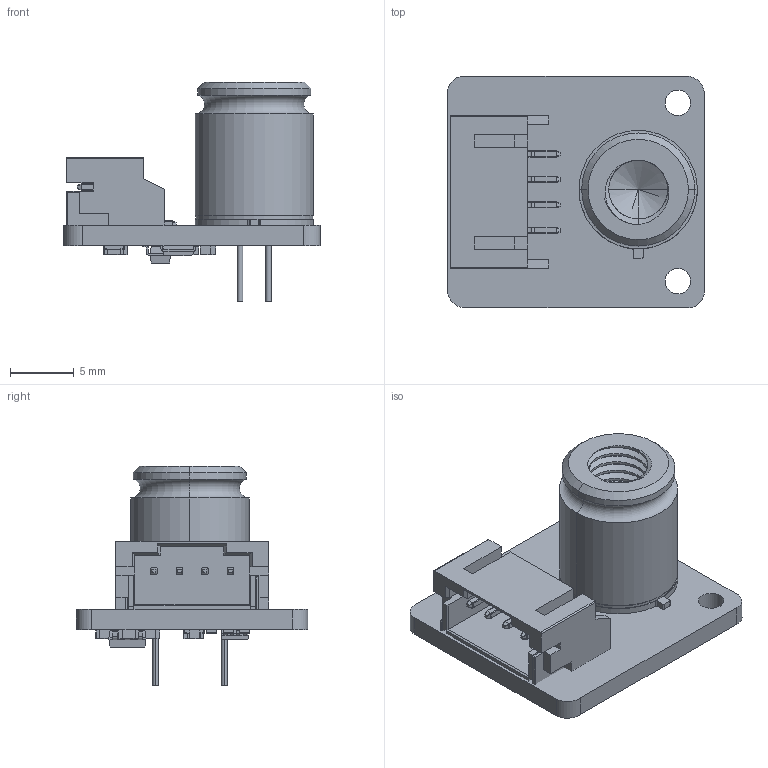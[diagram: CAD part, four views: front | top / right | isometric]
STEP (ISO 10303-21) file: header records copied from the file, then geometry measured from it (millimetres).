
FILE_DESCRIPTION(/* description */ (''),/* implementation_level */ '2;1');
FILE_NAME(/* name */ 'Thermal Camera HAT-V1.2_step.stp',/* time_stamp */ '2025-08-14T09:36:49+08:00',/* author */ (''),/* organization */ (''),/* preprocessor_version */ 'ST-DEVELOPER v16.7',/* originating_system */ 'SIEMENS PLM Software NX 12.0',/* authorisation */ '');
FILE_SCHEMA (('AUTOMOTIVE_DESIGN { 1 0 10303 214 3 1 1 1 }'));
Products named in the file (37): 3_1_200; 1_1_2_A; 2_1_200; PH2_0_SMD-W__1_200; C_060312508; LOGO_9444; LOGO_; R_0603866; SOT23-5-2; VSSOP_DCU_MO-187CA]; MLX90640ESF-BAB-000-SP_step; Open CASCADE STEP translator 6.8 1.1.1; C_0603; C1; C2; C3; C4; C5; PH2_0_SMD-W-4P-13253_AF0_ASM; PH2_0_SMD-W-4P-3839_AF0_ASM; PH2.0_SMD-W-4P; Designator14; PH2_0-4PWB; P1; R_0603; R3; R4; R5; R6; U1; U2; U3; C6; C8; R2; Board; Thermal Camera HAT-V1.2_step
Assembly tree (49 placements, depth 8):
  Thermal Camera HAT-V1.2_step
    Board
      Open CASCADE STEP translator 6.8 1.1.1
    R2
      R_0603
        R_0603866
        LOGO_
    C8
      C_0603
        LOGO_9444
        C_060312508
    C6
      C_0603
        LOGO_9444
        C_060312508
    U3
      MLX90640ESF-BAB-000-SP_step
    U2
      VSSOP_DCU_MO-187CA]
    U1
      SOT23-5-2
    R6
      R_0603
        R_0603866
        LOGO_
    R5
      R_0603
        R_0603866
        LOGO_
    R4
      R_0603
        R_0603866
        LOGO_
    R3
      R_0603
        R_0603866
        LOGO_
    P1
      PH2_0-4PWB
        Designator14
          PH2.0_SMD-W-4P
            PH2_0_SMD-W-4P-3839_AF0_ASM
              PH2_0_SMD-W-4P-13253_AF0_ASM
                2_1_200
                1_1_2_A
                3_1_200
              PH2_0_SMD-W__1_200  x4
    C5
      C_0603
        LOGO_9444
        C_060312508
    C4
      C_0603
        LOGO_9444
        C_060312508
    C3
      C_0603
        LOGO_9444
        C_060312508
    C2
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Bounding box: 20.15 x 18.17 x 17.25 mm (x, y, z)
Volume: 1394.4 mm3; surface area: 2282.1 mm2
Topology: 215 solids, 215 shells, 3522 faces, 8583 edges, 5564 vertices
Faces by surface type: plane 1861, bspline 998, cylinder 556, sphere 62, torus 34, cone 11
Full cylindrical faces by diameter (mm): 0.8 x4, 2 x2
Entity records: 55787 total; most frequent: CARTESIAN_POINT 19541, ORIENTED_EDGE 6762, DIRECTION 5306, EDGE_CURVE 3381, LINE 2400, VECTOR 2400, VERTEX_POINT 2206, AXIS2_PLACEMENT_3D 1453
